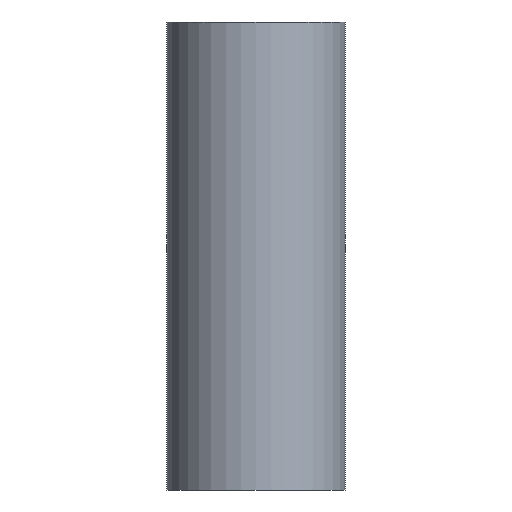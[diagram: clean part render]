
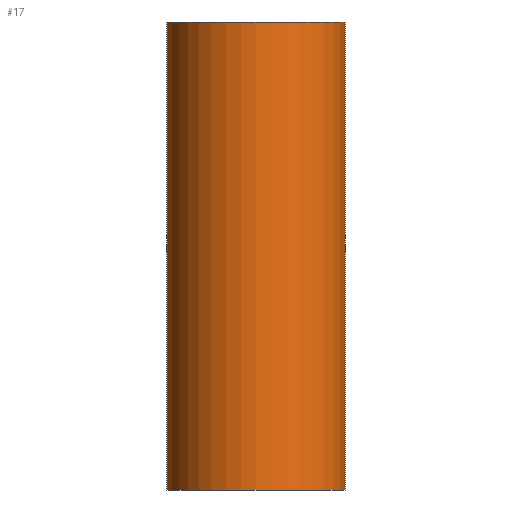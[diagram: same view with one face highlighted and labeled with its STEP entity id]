
A CAD part, front view. The second image highlights one B-rep face of the part: STEP entity #17.
In plain terms, the highlighted cylindrical face has radius 6 mm (diameter 12 mm), a full revolution.
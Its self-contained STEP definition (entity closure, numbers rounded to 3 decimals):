
#17 = ADVANCED_FACE('',(#18),#32,.T.);
#18 = FACE_BOUND('',#19,.T.);
#19 = EDGE_LOOP('',(#20,#50,#81,#82));
#20 = ORIENTED_EDGE('',*,*,#21,.T.);
#21 = EDGE_CURVE('',#22,#24,#26,.T.);
#22 = VERTEX_POINT('',#23);
#23 = CARTESIAN_POINT('',(-6.,0.,0.));
#24 = VERTEX_POINT('',#25);
#25 = CARTESIAN_POINT('',(-6.,0.,31.5));
#26 = SEAM_CURVE('',#27,(#31,#43),.PCURVE_S1.);
#27 = LINE('',#28,#29);
#28 = CARTESIAN_POINT('',(-6.,0.,0.));
#29 = VECTOR('',#30,1.);
#30 = DIRECTION('',(-0.,-0.,1.));
#31 = PCURVE('',#32,#37);
#32 = CYLINDRICAL_SURFACE('',#33,6.);
#33 = AXIS2_PLACEMENT_3D('',#34,#35,#36);
#34 = CARTESIAN_POINT('',(0.,0.,0.));
#35 = DIRECTION('',(0.,-0.,-1.));
#36 = DIRECTION('',(-1.,-0.,-0.));
#37 = DEFINITIONAL_REPRESENTATION('',(#38),#42);
#38 = LINE('',#39,#40);
#39 = CARTESIAN_POINT('',(0.,0.));
#40 = VECTOR('',#41,1.);
#41 = DIRECTION('',(0.,-1.));
#42 = ( GEOMETRIC_REPRESENTATION_CONTEXT(2) 
PARAMETRIC_REPRESENTATION_CONTEXT() REPRESENTATION_CONTEXT('2D SPACE',''
  ) );
#43 = PCURVE('',#32,#44);
#44 = DEFINITIONAL_REPRESENTATION('',(#45),#49);
#45 = LINE('',#46,#47);
#46 = CARTESIAN_POINT('',(6.283,0.));
#47 = VECTOR('',#48,1.);
#48 = DIRECTION('',(0.,-1.));
#49 = ( GEOMETRIC_REPRESENTATION_CONTEXT(2) 
PARAMETRIC_REPRESENTATION_CONTEXT() REPRESENTATION_CONTEXT('2D SPACE',''
  ) );
#50 = ORIENTED_EDGE('',*,*,#51,.T.);
#51 = EDGE_CURVE('',#24,#24,#52,.T.);
#52 = SURFACE_CURVE('',#53,(#58,#65),.PCURVE_S1.);
#53 = CIRCLE('',#54,6.);
#54 = AXIS2_PLACEMENT_3D('',#55,#56,#57);
#55 = CARTESIAN_POINT('',(0.,0.,31.5));
#56 = DIRECTION('',(0.,0.,-1.));
#57 = DIRECTION('',(-1.,-0.,-0.));
#58 = PCURVE('',#32,#59);
#59 = DEFINITIONAL_REPRESENTATION('',(#60),#64);
#60 = LINE('',#61,#62);
#61 = CARTESIAN_POINT('',(0.,-31.5));
#62 = VECTOR('',#63,1.);
#63 = DIRECTION('',(1.,0.));
#64 = ( GEOMETRIC_REPRESENTATION_CONTEXT(2) 
PARAMETRIC_REPRESENTATION_CONTEXT() REPRESENTATION_CONTEXT('2D SPACE',''
  ) );
#65 = PCURVE('',#66,#71);
#66 = PLANE('',#67);
#67 = AXIS2_PLACEMENT_3D('',#68,#69,#70);
#68 = CARTESIAN_POINT('',(0.,0.,31.5));
#69 = DIRECTION('',(-0.,-0.,1.));
#70 = DIRECTION('',(1.,0.,0.));
#71 = DEFINITIONAL_REPRESENTATION('',(#72),#80);
#72 = ( BOUNDED_CURVE() B_SPLINE_CURVE(2,(#73,#74,#75,#76,#77,#78,#79),
.UNSPECIFIED.,.T.,.F.) B_SPLINE_CURVE_WITH_KNOTS((1,2,2,2,2,1),(
    -2.094,0.,2.094,4.189,6.283,
8.378),.UNSPECIFIED.) CURVE() GEOMETRIC_REPRESENTATION_ITEM() 
RATIONAL_B_SPLINE_CURVE((1.,0.5,1.,0.5,1.,0.5,1.)) REPRESENTATION_ITEM(
  '') );
#73 = CARTESIAN_POINT('',(-6.,0.));
#74 = CARTESIAN_POINT('',(-6.,10.392));
#75 = CARTESIAN_POINT('',(3.,5.196));
#76 = CARTESIAN_POINT('',(12.,0.));
#77 = CARTESIAN_POINT('',(3.,-5.196));
#78 = CARTESIAN_POINT('',(-6.,-10.392));
#79 = CARTESIAN_POINT('',(-6.,0.));
#80 = ( GEOMETRIC_REPRESENTATION_CONTEXT(2) 
PARAMETRIC_REPRESENTATION_CONTEXT() REPRESENTATION_CONTEXT('2D SPACE',''
  ) );
#81 = ORIENTED_EDGE('',*,*,#21,.F.);
#82 = ORIENTED_EDGE('',*,*,#83,.F.);
#83 = EDGE_CURVE('',#22,#22,#84,.T.);
#84 = SURFACE_CURVE('',#85,(#90,#97),.PCURVE_S1.);
#85 = CIRCLE('',#86,6.);
#86 = AXIS2_PLACEMENT_3D('',#87,#88,#89);
#87 = CARTESIAN_POINT('',(0.,0.,0.));
#88 = DIRECTION('',(0.,0.,-1.));
#89 = DIRECTION('',(-1.,-0.,-0.));
#90 = PCURVE('',#32,#91);
#91 = DEFINITIONAL_REPRESENTATION('',(#92),#96);
#92 = LINE('',#93,#94);
#93 = CARTESIAN_POINT('',(0.,0.));
#94 = VECTOR('',#95,1.);
#95 = DIRECTION('',(1.,0.));
#96 = ( GEOMETRIC_REPRESENTATION_CONTEXT(2) 
PARAMETRIC_REPRESENTATION_CONTEXT() REPRESENTATION_CONTEXT('2D SPACE',''
  ) );
#97 = PCURVE('',#98,#103);
#98 = PLANE('',#99);
#99 = AXIS2_PLACEMENT_3D('',#100,#101,#102);
#100 = CARTESIAN_POINT('',(0.,0.,0.));
#101 = DIRECTION('',(-0.,-0.,1.));
#102 = DIRECTION('',(1.,0.,0.));
#103 = DEFINITIONAL_REPRESENTATION('',(#104),#112);
#104 = ( BOUNDED_CURVE() B_SPLINE_CURVE(2,(#105,#106,#107,#108,#109,#110
,#111),.UNSPECIFIED.,.T.,.F.) B_SPLINE_CURVE_WITH_KNOTS((1,2,2,2,2,1),(
    -2.094,0.,2.094,4.189,6.283,
8.378),.UNSPECIFIED.) CURVE() GEOMETRIC_REPRESENTATION_ITEM() 
RATIONAL_B_SPLINE_CURVE((1.,0.5,1.,0.5,1.,0.5,1.)) REPRESENTATION_ITEM(
  '') );
#105 = CARTESIAN_POINT('',(-6.,0.));
#106 = CARTESIAN_POINT('',(-6.,10.392));
#107 = CARTESIAN_POINT('',(3.,5.196));
#108 = CARTESIAN_POINT('',(12.,0.));
#109 = CARTESIAN_POINT('',(3.,-5.196));
#110 = CARTESIAN_POINT('',(-6.,-10.392));
#111 = CARTESIAN_POINT('',(-6.,0.));
#112 = ( GEOMETRIC_REPRESENTATION_CONTEXT(2) 
PARAMETRIC_REPRESENTATION_CONTEXT() REPRESENTATION_CONTEXT('2D SPACE',''
  ) );
